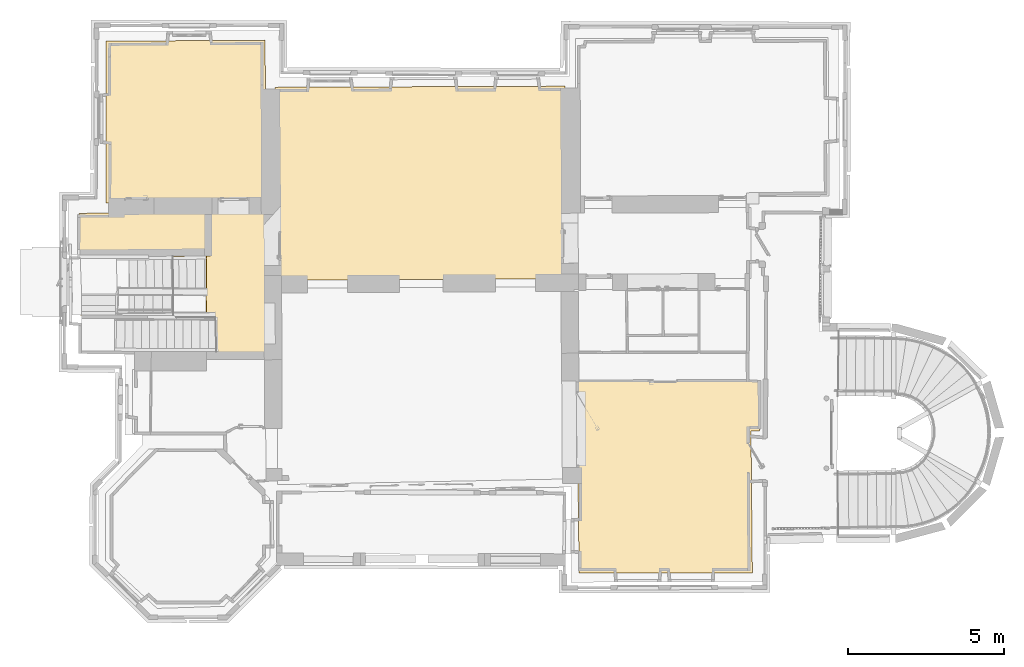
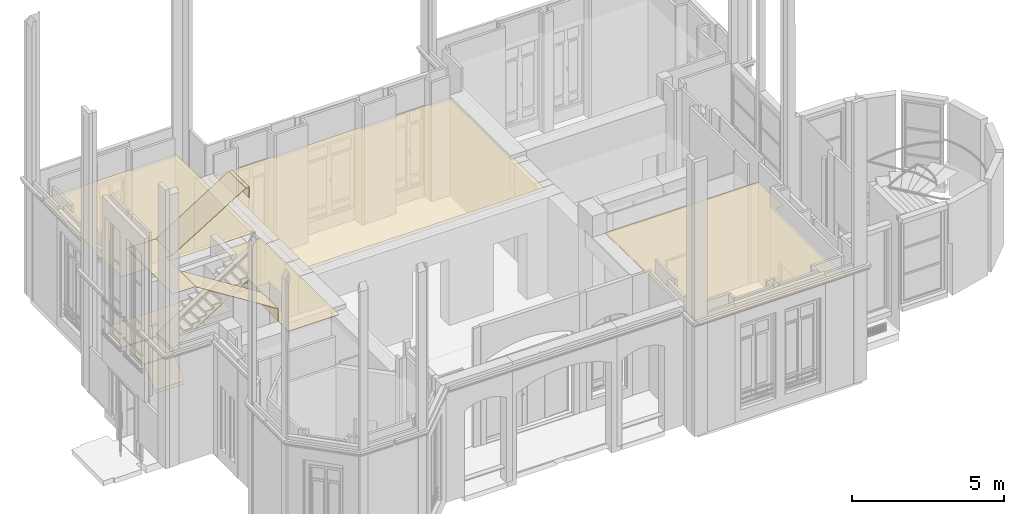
# One storey, part 80 of 97: 5 coverings.
"""IFC2X3 building model written with IfcOpenShell, lengths in centimetres."""

from ifc_helpers import new_model, entity, si_unit, converted_unit, direction, frame, origin, origin_with_axes, place, context, subcontext, project, spatial, faceted_brep, material, element, save


model = new_model("IFC2X3")

# Units and contexts
model_context = context("Model", 3, precision=0.0001, world=origin(), true_north=direction((0.225632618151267, 0.974212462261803, 0.0)))
body_context = subcontext(model_context, "Body", "Model", "MODEL_VIEW")
ifc_project = project(units=[si_unit("LENGTHUNIT", "METRE", prefix="CENTI"), si_unit("AREAUNIT", "SQUARE_METRE", prefix="CENTI"), si_unit("VOLUMEUNIT", "CUBIC_METRE", prefix="CENTI"), converted_unit("PLANEANGLEUNIT", "DEGREE", entity("IfcRatioMeasure", 0.0174532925), si_unit("PLANEANGLEUNIT", "RADIAN"), dimensions=[0, 0, 0, 0, 0, 0, 0])], contexts=[model_context])

# Site, building, storey
site_placement = place(None, origin_with_axes())
site = spatial("IfcSite", under=ifc_project, at=site_placement, Name="Default Site", CompositionType="ELEMENT")
building_placement = place(site_placement, origin_with_axes())
building = spatial("IfcBuilding", under=site, at=building_placement, Name="Default Building", CompositionType="ELEMENT")
storey_placement = place(building_placement, origin_with_axes())
storey = spatial("IfcBuildingStorey", under=building, at=storey_placement, Name="Rez-de-chaussée", CompositionType="ELEMENT", Elevation=0.0)

# Coverings
ifc_material = material(Name="Blanc")
covering_1_placement = place(storey_placement, frame((870.793910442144, -540.648609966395, 393.400635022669), z_axis=(0.0, 0.0, 1.0), x_axis=(1.0, 0.0, 0.0)))
element("IfcCovering", 1, at=covering_1_placement, inside=storey, material=ifc_material, Name="Faux-plafond 6628", PredefinedType="CEILING", context=body_context, shape_type="Brep", body=[
    faceted_brep([(-577.595539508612, -454.424327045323, 1.4000041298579), (-23.1442407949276, -454.278033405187, 1.4000041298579), (-27.4806932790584, -0.251525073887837, 1.4000041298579), (4.35277751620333e-06, 6.52706431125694e-06, 1.4000041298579), (-1.27372306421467, 160.447651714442, 1.4000041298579), (-585.352130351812, 159.679896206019, 1.4000041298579), (-585.352130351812, 159.679896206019, 1.02333735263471e-05), (-1.27372306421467, 160.447651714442, 1.02333735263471e-05), (4.35277751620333e-06, 6.52706431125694e-06, 1.02333735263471e-05), (-27.4806932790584, -0.251525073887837, 1.02333735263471e-05), (-23.1442407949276, -454.278033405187, 1.02333735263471e-05), (-577.595539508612, -454.424327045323, 1.02333735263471e-05), (-23.1442407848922, -454.278071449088, 1.02333735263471e-05), (-23.1442407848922, -454.278071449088, 1.4000041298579), (-27.4806316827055, -0.251524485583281, 1.02333735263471e-05), (-27.4806316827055, -0.251524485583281, 1.4000041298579), (4.19919569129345e-06, 2.33052907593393e-05, 1.02333735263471e-05), (4.19919569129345e-06, 2.33052907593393e-05, 1.4000041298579), (-1.2737121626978, 160.447651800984, 1.02333735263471e-05), (-1.2737121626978, 160.447651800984, 1.4000041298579), (-585.35213036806, 159.679908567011, 1.02333735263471e-05), (-585.35213036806, 159.679908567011, 1.4000041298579), (-577.59554827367, -454.424327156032, 1.02333735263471e-05), (-577.59554827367, -454.424327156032, 1.4000041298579)], [[[0, 1, 2, 3, 4, 5]], [[6, 7, 8, 9, 10, 11]], [[11, 12, 13, 0]], [[10, 14, 15, 1]], [[9, 16, 17, 2]], [[8, 18, 19, 3]], [[7, 20, 21, 4]], [[6, 22, 23, 5]]]),
])
covering_2_placement = place(storey_placement, frame((-1303.97637150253, 16.2786969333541, 266.140781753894), z_axis=(0.0, 0.0, 1.0), x_axis=(1.0, 0.0, 0.0)))
element("IfcCovering", 2, at=covering_2_placement, inside=storey, material=ifc_material, Name="Faux-plafond 13208", PredefinedType="CEILING", context=body_context, shape_type="Brep", body=[
    faceted_brep([(392.589786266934, 2.40936639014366, 553.559173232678), (392.644717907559, -109.483576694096, 553.559173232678), (404.833057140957, -109.477592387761, 553.559173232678), (404.7780301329, 2.65483023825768, 553.559173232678), (404.7780301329, 2.65483023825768, 552.159179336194), (404.833057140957, -109.477592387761, 552.159179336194), (392.644717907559, -109.483576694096, 552.159179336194), (392.589786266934, 2.40936639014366, 552.159179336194), (392.644690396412, -109.483576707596, 552.159179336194), (392.644690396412, -109.483576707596, 553.559173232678), (404.833057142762, -109.477596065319, 552.159179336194), (404.833057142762, -109.477596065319, 553.559173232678), (404.778035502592, 2.6548302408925, 552.159179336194), (404.778035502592, 2.6548302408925, 553.559173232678), (392.589786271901, 2.4093661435, 552.159179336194), (392.589786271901, 2.4093661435, 553.559173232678)], [[[0, 1, 2, 3]], [[4, 5, 6, 7]], [[7, 8, 9, 0]], [[6, 10, 11, 1]], [[5, 12, 13, 2]], [[4, 14, 15, 3]]]),
    faceted_brep([(592.208841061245, 140.261088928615, 133.14637053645), (416.951015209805, 140.504681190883, 133.14637053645), (416.672542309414, 3.04870220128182, 133.14637053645), (403.435733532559, 2.52939375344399, 133.14637053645), (403.121211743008, -302.021242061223, 133.14637053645), (403.121211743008, -371.106315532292, 133.14637053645), (595.883395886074, -371.071077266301, 133.14637053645), (595.883395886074, -371.071077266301, 131.746376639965), (403.121211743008, -371.106315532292, 131.746376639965), (403.121211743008, -302.021242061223, 131.746376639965), (403.435733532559, 2.52939375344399, 131.746376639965), (416.672542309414, 3.04870220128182, 131.746376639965), (416.951015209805, 140.504681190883, 131.746376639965), (592.208841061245, 140.261088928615, 131.746376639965), (416.951015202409, 140.504675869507, 131.746376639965), (416.951015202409, 140.504675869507, 133.14637053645), (416.67255877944, 3.04870216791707, 131.746376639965), (416.67255877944, 3.04870216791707, 133.14637053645), (403.435733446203, 2.52939595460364, 131.746376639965), (403.435733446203, 2.52939595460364, 133.14637053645), (403.121236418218, -302.021242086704, 131.746376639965), (403.121236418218, -302.021242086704, 133.14637053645), (595.883395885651, -371.071074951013, 131.746376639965), (595.883395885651, -371.071074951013, 133.14637053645), (592.208838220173, 140.261088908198, 131.746376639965), (592.208838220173, 140.261088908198, 133.14637053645)], [[[0, 1, 2, 3, 4, 5, 6]], [[7, 8, 9, 10, 11, 12, 13]], [[13, 14, 15, 0]], [[12, 16, 17, 1]], [[11, 18, 19, 2]], [[10, 20, 21, 3]], [[9, 8, 5, 4]], [[8, 22, 23, 5]], [[7, 24, 25, 6]]]),
    faceted_brep([(3.80938312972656, -197.555626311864, -78.7335623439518), (104.712703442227, -197.778845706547, -78.7335623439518), (105.55403492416, -182.086063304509, -78.7335623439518), (3.84524128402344, -181.382895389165, -78.7335623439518), (3.84524128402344, -181.382895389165, -80.1335562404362), (105.55403492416, -182.086063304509, -80.1335562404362), (104.712703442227, -197.778845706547, -80.1335562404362), (3.80938312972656, -197.555626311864, -80.1335562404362), (104.712703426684, -197.77885273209, -80.1335562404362), (104.712703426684, -197.77885273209, -78.7335623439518), (105.554056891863, -182.086064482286, -80.1335562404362), (105.554056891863, -182.086064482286, -78.7335623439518), (3.84524130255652, -181.382892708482, -80.1335562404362), (3.84524130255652, -181.382892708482, -78.7335623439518), (3.80946267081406, -197.555626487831, -80.1335562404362), (3.80946267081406, -197.555626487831, -78.7335623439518)], [[[0, 1, 2, 3]], [[4, 5, 6, 7]], [[7, 8, 9, 0]], [[6, 10, 11, 1]], [[5, 12, 13, 2]], [[4, 14, 15, 3]]]),
    faceted_brep([(384.718444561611, 2.32577534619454, 173.24634898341), (384.9857594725, -109.417409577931, 173.24634898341), (404.833057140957, -109.588874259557, 173.24634898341), (404.7780301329, 2.53880085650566, 173.24634898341), (404.7780301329, 2.53880085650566, 171.846355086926), (404.833057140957, -109.588874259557, 171.846355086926), (384.9857594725, -109.417409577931, 171.846355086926), (384.718444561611, 2.32577534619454, 171.846355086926), (384.985754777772, -109.417409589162, 171.846355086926), (384.985754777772, -109.417409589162, 173.24634898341), (404.833057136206, -109.588874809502, 171.846355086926), (404.833057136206, -109.588874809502, 173.24634898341), (404.778037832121, 2.53880086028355, 171.846355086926), (404.778037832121, 2.53880086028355, 173.24634898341), (384.718444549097, 2.32577652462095, 171.846355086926), (384.718444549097, 2.32577652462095, 173.24634898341)], [[[0, 1, 2, 3]], [[4, 5, 6, 7]], [[7, 8, 9, 0]], [[6, 10, 11, 1]], [[5, 12, 13, 2]], [[4, 14, 15, 3]]]),
    faceted_brep([(90.7552983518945, -301.707054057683, 380.559219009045), (90.9813191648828, -192.251671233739, 380.559219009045), (90.9813191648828, -107.349718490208, 380.559219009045), (115.766837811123, -107.141567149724, 380.559219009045), (114.862659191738, 0.527826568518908, 380.559219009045), (4.05400059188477, 0.343225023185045, 380.559219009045), (3.54788563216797, -300.916243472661, 380.559219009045), (3.54788563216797, -300.916243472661, 379.159225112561), (4.05400059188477, 0.343225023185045, 379.159225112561), (114.862659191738, 0.527826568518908, 379.159225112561), (115.766837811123, -107.141567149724, 379.159225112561), (90.9813191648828, -107.349718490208, 379.159225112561), (90.9813191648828, -192.251671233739, 379.159225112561), (90.7552983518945, -301.707054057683, 379.159225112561), (90.9813044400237, -192.251671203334, 379.159225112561), (90.9813044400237, -192.251671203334, 380.559219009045), (115.766837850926, -107.1415718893, 379.159225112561), (115.766837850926, -107.1415718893, 380.559219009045), (114.862639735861, 0.527826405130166, 379.159225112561), (114.862639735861, 0.527826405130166, 380.559219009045), (4.05400059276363, 0.343224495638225, 379.159225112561), (4.05400059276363, 0.343224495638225, 380.559219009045), (3.5478896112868, -300.916243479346, 379.159225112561), (3.5478896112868, -300.916243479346, 380.559219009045), (90.7552984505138, -301.707043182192, 379.159225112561), (90.7552984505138, -301.707043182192, 380.559219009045)], [[[0, 1, 2, 3, 4, 5, 6]], [[7, 8, 9, 10, 11, 12, 13]], [[13, 14, 15, 0]], [[12, 11, 2, 1]], [[11, 16, 17, 2]], [[10, 18, 19, 3]], [[9, 20, 21, 4]], [[8, 22, 23, 5]], [[7, 24, 25, 6]]]),
    faceted_brep([(89.2714764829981, -192.17442361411, 380.408395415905), (90.4419095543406, -301.918507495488, 379.670185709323), (403.930422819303, -301.918507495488, 181.948274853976), (403.670892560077, -193.410004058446, 182.111964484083), (402.923991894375, -193.410004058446, 180.927814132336), (403.183568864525, -301.918507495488, 180.764095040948), (89.6949873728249, -301.918507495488, 378.486048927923), (88.5246225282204, -192.17442361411, 379.224215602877), (88.5246541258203, -192.17442361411, 379.22426570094), (89.6950146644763, -301.918507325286, 378.486066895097), (90.4418828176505, -301.918508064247, 379.670227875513), (89.2714951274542, -192.174423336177, 380.408383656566), (89.6950032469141, -301.918507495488, 378.486074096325), (403.183582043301, -301.918507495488, 180.764115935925), (403.930404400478, -301.918507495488, 181.948245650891), (90.4419209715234, -301.918507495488, 379.670203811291), (402.923996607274, -193.410004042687, 180.92781115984), (403.670886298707, -193.410004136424, 182.112006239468), (403.930423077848, -301.918507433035, 181.948233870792), (88.524654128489, -192.174422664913, 379.224265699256), (89.2714764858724, -192.17442259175, 380.408395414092), (403.670909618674, -193.410004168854, 182.111991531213)], [[[0, 1, 2, 3]], [[4, 5, 6, 7]], [[8, 9, 10, 11]], [[12, 13, 14, 15]], [[13, 16, 17, 18]], [[4, 19, 20, 21]]]),
    faceted_brep([(1.77634022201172, -187.467552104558, -74.555252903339), (113.006999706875, -187.71362358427, -74.7640006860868), (114.359214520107, -114.365347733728, -12.541064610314), (1.08034870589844, -114.365347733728, -12.541064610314), (1.08034870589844, -113.459677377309, -13.6086572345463), (114.359214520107, -113.459677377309, -13.6086572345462), (113.006999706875, -186.807959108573, -75.8315982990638), (1.77634022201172, -186.561881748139, -75.6228455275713), (1.77634022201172, -186.561883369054, -75.62284361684), (113.006999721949, -186.807951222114, -75.8315995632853), (113.006999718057, -187.713620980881, -74.7639977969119), (1.77634024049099, -187.467547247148, -74.5552487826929), (113.006999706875, -186.807955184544, -75.8316029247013), (114.359181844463, -113.459677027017, -13.6086569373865), (114.359181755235, -114.365345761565, -12.5410662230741), (113.006999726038, -187.713623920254, -74.7640002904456), (114.359214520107, -113.459677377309, -13.6086572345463), (1.08034870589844, -114.365341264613, -12.5410624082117), (114.359214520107, -114.365341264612, -12.5410624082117), (1.77640089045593, -186.561883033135, -75.6228433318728), (1.77640093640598, -187.467551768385, -74.555252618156), (1.08034875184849, -114.365346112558, -12.5410665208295)], [[[0, 1, 2, 3]], [[4, 5, 6, 7]], [[8, 9, 10, 11]], [[12, 13, 14, 15]], [[16, 4, 17, 18]], [[4, 19, 20, 21]]]),
    faceted_brep([(391.902187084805, -109.484589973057, 554.407275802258), (391.847272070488, 2.45361389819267, 554.372916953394), (111.739125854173, 0.506875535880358, 379.11677650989), (113.892021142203, -107.081771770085, 380.463785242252), (114.634635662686, -107.081771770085, 379.277003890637), (112.481718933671, 0.506875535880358, 377.929981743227), (392.58979661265, 2.45361389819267, 553.186079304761), (392.644711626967, -109.484589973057, 553.220438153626), (392.644717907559, -109.484589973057, 553.22042811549), (392.589774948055, 2.45361389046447, 553.186088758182), (391.847209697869, 2.45361386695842, 554.372914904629), (391.902152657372, -109.484589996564, 554.407254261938), (392.589786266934, 2.45361389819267, 553.1860958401), (112.481715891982, 0.506875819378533, 377.929986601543), (111.739089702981, 0.506875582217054, 379.116834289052), (391.847255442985, 2.45361413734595, 554.37294352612), (112.481715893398, 0.506875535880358, 377.929986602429), (114.634616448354, -107.081772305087, 379.276991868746), (113.892045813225, -107.081770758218, 380.463826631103), (111.739123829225, 0.506876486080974, 379.116855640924), (392.644717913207, -109.484589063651, 553.220428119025), (391.902187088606, -109.484589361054, 554.407275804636), (113.892009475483, -107.081771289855, 380.463803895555)], [[[0, 1, 2, 3]], [[4, 5, 6, 7]], [[8, 9, 10, 11]], [[12, 13, 14, 15]], [[16, 17, 18, 19]], [[4, 20, 21, 22]]]),
    faceted_brep([(114.942195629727, 0.529215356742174, 1.17966044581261), (117.096152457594, -107.109565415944, 2.55621270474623), (402.33769176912, -109.573830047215, 184.84857817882), (402.615379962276, 2.95136483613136, 185.02604334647), (403.369262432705, 2.95136483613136, 183.84639132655), (403.091620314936, -109.573830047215, 183.668955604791), (117.85002410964, -107.109565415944, 1.37655377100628), (115.696134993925, 0.529215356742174, 4.47856033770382e-05), (115.696170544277, 0.529215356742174, -1.08417240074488e-05), (117.850055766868, -107.109565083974, 1.37653019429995), (117.09615805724, -107.109565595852, 2.55618987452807), (114.942245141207, 0.529216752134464, 1.1796920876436), (117.850043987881, -107.109565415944, 1.37652266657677), (403.091647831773, -109.57383125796, 183.66891253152), (402.33767291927, -109.573830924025, 184.848607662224), (117.096164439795, -107.109565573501, 2.55619395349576), (403.091647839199, -109.573830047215, 183.668912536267), (403.369294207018, 2.95136472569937, 183.8464116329), (402.615407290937, 2.95136475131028, 185.026054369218), (402.33771163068, -109.573830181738, 184.848632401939), (115.696170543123, 0.52921554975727, -1.0842461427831e-05), (114.942195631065, 0.52921513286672, 1.17966044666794), (402.615382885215, 2.95136489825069, 185.026038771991)], [[[0, 1, 2, 3]], [[4, 5, 6, 7]], [[8, 9, 10, 11]], [[12, 13, 14, 15]], [[16, 17, 18, 19]], [[4, 20, 21, 22]]]),
    faceted_brep([(1.10886356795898, -116.45968047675, -12.7536405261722), (114.303901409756, -116.45968047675, -12.7536405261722), (117.850043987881, -107.109565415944, -12.7536405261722), (115.696170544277, 0.529215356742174, -12.7536405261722), (2.64402734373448e-05, 6.16942674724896e-07, -12.7536405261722), (2.64402734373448e-05, 6.16942674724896e-07, -14.1536344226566), (115.696170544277, 0.529215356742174, -14.1536344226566), (117.850043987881, -107.109565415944, -14.1536344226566), (114.303901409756, -116.45968047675, -14.1536344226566), (1.10886356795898, -116.45968047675, -14.1536344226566), (117.850054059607, -107.109569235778, -14.1536344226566), (117.850054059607, -107.109569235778, -12.7536405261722), (115.696143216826, 0.529214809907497, -14.1536344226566), (115.696143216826, 0.529214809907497, -12.7536405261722), (2.64449332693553e-05, -4.01780949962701e-07, -14.1536344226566), (2.64449332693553e-05, -4.01780949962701e-07, -12.7536405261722), (1.10891251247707, -116.459680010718, -14.1536344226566), (1.10891251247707, -116.459680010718, -12.7536405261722)], [[[0, 1, 2, 3, 4]], [[5, 6, 7, 8, 9]], [[9, 8, 1, 0]], [[8, 10, 11, 1]], [[7, 12, 13, 2]], [[6, 14, 15, 3]], [[5, 16, 17, 4]]]),
    faceted_brep([(116.60025379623, -107.134569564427, -14.1536344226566), (114.446380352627, 0.504208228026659, -14.1536344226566), (115.696170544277, 0.529215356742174, -14.1536344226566), (117.850043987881, -107.109565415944, -14.1536344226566), (114.446380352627, 0.504208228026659, 2.84637320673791), (115.696170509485, 0.529217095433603, 2.84637320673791), (115.696170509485, 0.529217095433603, -14.1536344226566), (116.60025379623, -107.134569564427, 2.84637320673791), (117.850043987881, -107.109565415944, 2.84637320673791), (115.696170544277, 0.529215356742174, 2.84637320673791), (117.850043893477, -107.109560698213, -14.1536344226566), (117.850043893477, -107.109560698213, 2.84637320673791), (115.696143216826, 0.529214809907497, -14.1536344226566), (115.696143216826, 0.529214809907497, 2.84637320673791), (114.446353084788, 0.504207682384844, 2.84637320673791), (114.446353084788, 0.504207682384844, -14.1536344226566)], [[[0, 1, 2, 3]], [[1, 4, 5, 6]], [[4, 7, 8, 9]], [[7, 0, 10, 11]], [[3, 12, 13, 8]], [[7, 14, 15, 0]]]),
    faceted_brep([(105.55403492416, -182.086063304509, -80.1536310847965), (3.76961491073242, -181.382370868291, -80.1536310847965), (3.77819797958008, -180.132401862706, -80.1536310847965), (105.562713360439, -180.836094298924, -80.1536310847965), (3.76961491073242, -181.382370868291, -70.1536287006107), (3.77825665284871, -180.132402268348, -70.1536287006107), (3.77825665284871, -180.132402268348, -80.1536310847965), (105.55403492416, -182.086063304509, -70.1536287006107), (105.562713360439, -180.836094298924, -70.1536287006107), (3.77819797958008, -180.132401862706, -70.1536287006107), (105.562676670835, -180.836094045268, -80.1536310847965), (105.562676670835, -180.836094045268, -70.1536287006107), (3.77819799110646, -180.132400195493, -80.1536310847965), (3.77819799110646, -180.132400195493, -70.1536287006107), (3.76961491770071, -181.382369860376, -70.1536287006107), (3.76961491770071, -181.382369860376, -80.1536310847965)], [[[0, 1, 2, 3]], [[1, 4, 5, 6]], [[4, 7, 8, 9]], [[7, 0, 10, 11]], [[3, 12, 13, 8]], [[7, 14, 15, 0]]]),
    faceted_brep([(403.583076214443, -109.589488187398, 133.137620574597), (403.528049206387, 2.53818692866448, 133.137620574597), (404.7780301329, 2.53880085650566, 133.137620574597), (404.833057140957, -109.588874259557, 133.137620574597), (403.528049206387, 2.53818692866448, 173.13763011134), (404.778030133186, 2.53880027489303, 173.13763011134), (404.778030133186, 2.53880027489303, 133.137620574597), (403.583076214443, -109.589488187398, 173.13763011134), (404.833057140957, -109.588874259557, 173.13763011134), (404.7780301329, 2.53880085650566, 173.13763011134), (404.833057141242, -109.588874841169, 133.137620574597), (404.833057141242, -109.588874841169, 173.13763011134), (404.778037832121, 2.53880086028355, 133.137620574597), (404.778037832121, 2.53880086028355, 173.13763011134), (403.528056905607, 2.53818693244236, 173.13763011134), (403.528056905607, 2.53818693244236, 133.137620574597)], [[[0, 1, 2, 3]], [[1, 4, 5, 6]], [[4, 7, 8, 9]], [[7, 0, 10, 11]], [[3, 12, 13, 8]], [[7, 14, 15, 0]]]),
    faceted_brep([(403.121211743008, -302.021242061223, 133.14637053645), (403.583076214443, -109.58587018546, 133.14637053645), (404.833057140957, -109.588874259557, 133.14637053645), (404.371192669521, -302.024246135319, 133.14637053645), (403.583076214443, -109.58587018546, 180.146373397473), (404.833057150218, -109.588870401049, 180.146373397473), (404.833057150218, -109.588870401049, 133.14637053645), (403.121211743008, -302.021242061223, 180.146373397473), (404.371192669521, -302.024246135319, 180.146373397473), (404.833057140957, -109.588874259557, 180.146373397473), (404.371192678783, -302.024242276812, 133.14637053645), (404.371192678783, -302.024242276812, 180.146373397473), (404.833077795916, -109.588874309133, 133.14637053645), (404.833077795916, -109.588874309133, 180.146373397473), (403.583096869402, -109.585870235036, 180.146373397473), (403.583096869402, -109.585870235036, 133.14637053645)], [[[0, 1, 2, 3]], [[1, 4, 5, 6]], [[4, 7, 8, 9]], [[7, 0, 10, 11]], [[3, 12, 13, 8]], [[7, 14, 15, 0]]]),
    faceted_brep([(403.544738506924, -109.475726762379, 511.359227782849), (403.489616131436, 2.73159357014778, 511.359227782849), (404.739692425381, 2.73220749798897, 511.359227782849), (404.794719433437, -109.475112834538, 511.359227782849), (403.489616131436, 2.73159357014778, 553.359187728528), (404.739692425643, 2.73220696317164, 553.359187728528), (404.739692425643, 2.73220696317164, 511.359227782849), (403.544738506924, -109.475726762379, 553.359187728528), (404.794719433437, -109.475112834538, 553.359187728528), (404.739692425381, 2.73220749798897, 553.359187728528), (404.794719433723, -109.475113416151, 511.359227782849), (404.794719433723, -109.475113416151, 553.359187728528), (404.73966104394, 2.73220748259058, 511.359227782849), (404.73966104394, 2.73220748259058, 553.359187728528), (403.489680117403, 2.7315936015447, 553.359187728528), (403.489680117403, 2.7315936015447, 511.359227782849)], [[[0, 1, 2, 3]], [[1, 4, 5, 6]], [[4, 7, 8, 9]], [[7, 0, 10, 11]], [[3, 12, 13, 8]], [[7, 14, 15, 0]]]),
])
covering_3_placement = place(storey_placement, frame((-894.307760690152, 30.7764608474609, 245.295358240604), z_axis=(0.0, 0.0, 1.0), x_axis=(1.0, 0.0, 0.0)))
element("IfcCovering", 3, at=covering_3_placement, inside=storey, material=ifc_material, Name="Faux-plafond 6012", PredefinedType="CEILING", context=body_context, shape_type="Brep", body=[
    faceted_brep([(-413.272614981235, -3.02382596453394, 1.39999336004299), (-4.34175138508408e-05, 1.11142430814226e-06, 1.39999336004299), (-0.936551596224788, 127.996568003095, 1.39999336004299), (-414.209123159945, 124.972752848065, 1.39999336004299), (-414.209123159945, 124.972752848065, -5.36441380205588e-07), (-0.936551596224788, 127.996568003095, -5.36441380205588e-07), (-4.34175138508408e-05, 1.11142430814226e-06, -5.36441380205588e-07), (-413.272614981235, -3.02382596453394, -5.36441380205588e-07), (-4.34057525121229e-05, -4.96022532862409e-07, -5.36441380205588e-07), (-4.34057525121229e-05, -4.96022532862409e-07, 1.39999336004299), (-0.936566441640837, 127.996567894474, -5.36441380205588e-07), (-0.936566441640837, 127.996567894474, 1.39999336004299), (-414.209123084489, 124.972742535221, -5.36441380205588e-07), (-414.209123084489, 124.972742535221, 1.39999336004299), (-413.2726000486, -3.02382585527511, -5.36441380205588e-07), (-413.2726000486, -3.02382585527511, 1.39999336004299)], [[[0, 1, 2, 3]], [[4, 5, 6, 7]], [[7, 8, 9, 0]], [[6, 10, 11, 1]], [[5, 12, 13, 2]], [[4, 14, 15, 3]]]),
])
covering_4_placement = place(storey_placement, frame((-679.698956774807, 559.245839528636, 380.69865643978), z_axis=(0.0, 0.0, 1.0), x_axis=(1.0, 0.0, 0.0)))
element("IfcCovering", 4, at=covering_4_placement, inside=storey, material=ifc_material, Name="Faux-plafond 6188", PredefinedType="CEILING", context=body_context, shape_type="Brep", body=[
    faceted_brep([(5.38688974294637, -617.780914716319, 1.39999449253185), (929.914677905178, -612.879338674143, 1.39999449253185), (928.408683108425, 3.46415955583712, 1.39999449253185), (1.26830098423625e-05, -1.47147927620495e-05, 1.39999449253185), (1.26830098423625e-05, -1.47147927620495e-05, 5.96047478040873e-07), (928.408683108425, 3.46415955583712, 5.96047478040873e-07), (929.914677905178, -612.879338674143, 5.96047478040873e-07), (5.38688974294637, -617.780914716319, 5.96047478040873e-07), (929.914677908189, -612.879339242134, 5.96047478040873e-07), (929.914677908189, -612.879339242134, 1.39999449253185), (928.408679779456, 3.46415954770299, 5.96047478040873e-07), (928.408679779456, 3.46415954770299, 1.39999449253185), (1.26664077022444e-05, -1.02653657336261e-05, 5.96047478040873e-07), (1.26664077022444e-05, -1.02653657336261e-05, 1.39999449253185), (5.38691503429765, -617.780914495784, 5.96047478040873e-07), (5.38691503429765, -617.780914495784, 1.39999449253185)], [[[0, 1, 2, 3]], [[4, 5, 6, 7]], [[7, 8, 9, 0]], [[6, 10, 11, 1]], [[5, 12, 13, 2]], [[4, 14, 15, 3]]]),
])
covering_5_placement = place(storey_placement, frame((-1220.67533554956, 706.874005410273, 397.697191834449), z_axis=(0.0, 0.0, 1.0), x_axis=(1.0, 0.0, 0.0)))
element("IfcCovering", 5, at=covering_5_placement, inside=storey, material=ifc_material, Name="Faux-plafond 6189", PredefinedType="CEILING", context=body_context, shape_type="Brep", body=[
    faceted_brep([(0.0135046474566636, -517.543177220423, 1.39998853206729), (510.931835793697, -514.054267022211, 1.39998853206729), (508.729801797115, 2.86610880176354, 1.39998853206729), (-3.75278363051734e-05, -1.63050479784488e-05, 1.39998853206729), (-3.75278363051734e-05, -1.63050479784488e-05, -5.36441708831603e-06), (508.729801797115, 2.86610880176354, -5.36441708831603e-06), (510.931835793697, -514.054267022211, -5.36441708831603e-06), (0.0135046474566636, -517.543177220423, -5.36441708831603e-06), (510.931835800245, -514.05426798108, -5.36441708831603e-06), (510.931835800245, -514.05426798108, 1.39998853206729), (508.72977339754, 2.86610868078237, -5.36441708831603e-06), (508.72977339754, 2.86610868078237, 1.39998853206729), (-3.76223355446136e-05, 4.68422286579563e-07, -5.36441708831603e-06), (-3.76223355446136e-05, 4.68422286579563e-07, 1.39998853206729), (0.0134754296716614, -517.543177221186, -5.36441708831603e-06), (0.0134754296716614, -517.543177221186, 1.39998853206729)], [[[0, 1, 2, 3]], [[4, 5, 6, 7]], [[7, 8, 9, 0]], [[6, 10, 11, 1]], [[5, 12, 13, 2]], [[4, 14, 15, 3]]]),
])

save(model, "model.ifc")
